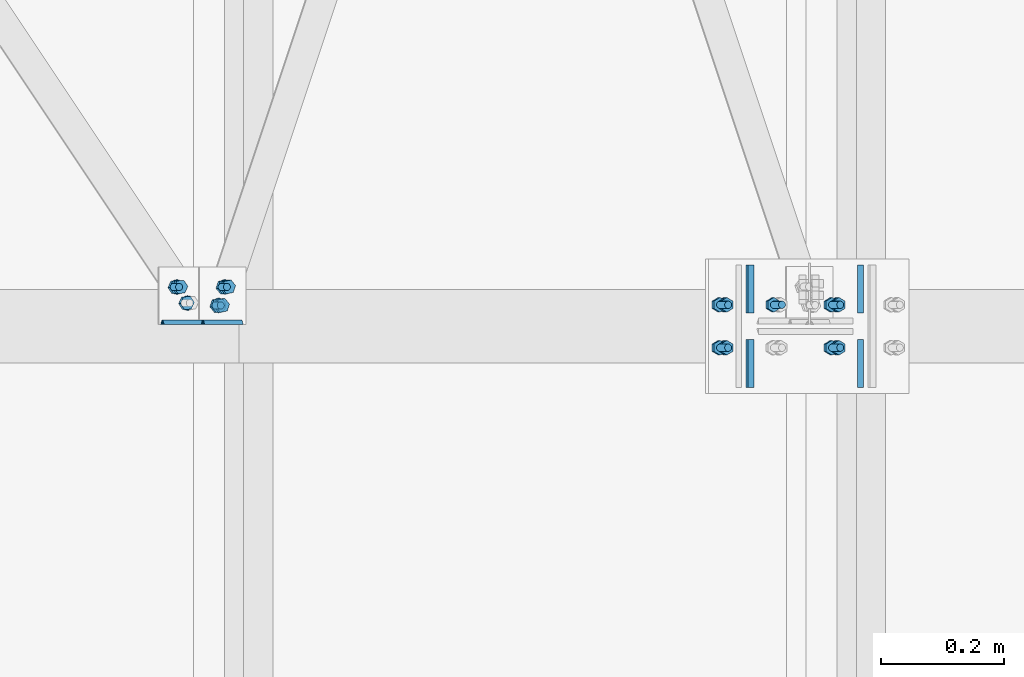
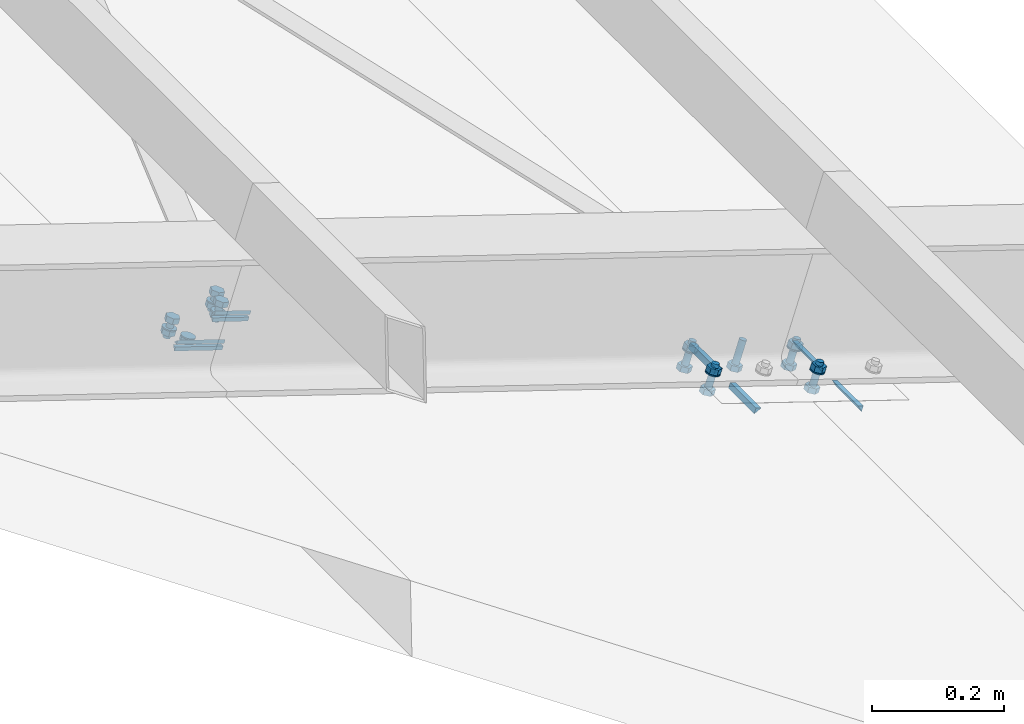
# One storey, part 47 of 53: 32 mechanical fasteners, 12 fasteners.
"""IFC4 building model written with IfcOpenShell, lengths in metres."""

from ifc_helpers import new_model, si_unit, frame, origin_with_axes, place, context, project, spatial, polyline, outline, extrude, type_object, element, save


model = new_model("IFC4")

# Units and contexts
model_context = context("Model", 3, precision=1e-05, world=origin_with_axes())
ifc_project = project(units=[si_unit("LENGTHUNIT", "METRE"), si_unit("AREAUNIT", "SQUARE_METRE"), si_unit("VOLUMEUNIT", "CUBIC_METRE"), si_unit("MASSUNIT", "GRAM", prefix="KILO"), si_unit("TIMEUNIT", "SECOND"), si_unit("PLANEANGLEUNIT", "RADIAN"), si_unit("SOLIDANGLEUNIT", "STERADIAN"), si_unit("THERMODYNAMICTEMPERATUREUNIT", "DEGREE_CELSIUS")], contexts=[model_context])

# Site, building, storey
placement_1 = place(None, origin_with_axes())
site = spatial("IfcSite", under=ifc_project, at=placement_1, Name="Italia", CompositionType="ELEMENT")
building = spatial("IfcBuilding", under=site, at=placement_1, Name="Capannone", CompositionType="ELEMENT")
storey_placement = place(None, frame((0.0, 0.0, 5.550000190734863), z_axis=(0.0, 0.0, 1.0), x_axis=(1.0, 0.0, 0.0)))
storey = spatial("IfcBuildingStorey", under=building, at=storey_placement, Name="Storey 1", CompositionType="ELEMENT", Elevation=5.550000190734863)

# Mechanical fasteners
mechanical_fastener_type_1 = type_object("IfcMechanicalFastenerType", Name="Collegamento -1056_-1090", PredefinedType="BOLT")
placement_2 = place(placement_1, origin_with_axes())
mechanical_fastener_1_placement = place(placement_2, origin_with_axes())
element("IfcMechanicalFastener", 1, at=mechanical_fastener_1_placement, inside=storey, type_object=mechanical_fastener_type_1, Name="Collegamento -1056_-1090", NominalDiameter=0.0119996, context=model_context, shape_type="SweptSolid", body=[
    extrude(outline(polyline([(0.0, 0.0), (-0.00982285, -0.00689316), (-0.00876427, -0.0188465), (0.0021162, -0.0239067), (0.011939, -0.0170135), (0.0108814, -0.0050602), (0.0, 0.0)])), frame((12.9761, 12.0369, 5.92947), z_axis=(0.312231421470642, 0.0, 0.950006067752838), x_axis=(0.0, 1.0, 0.0)), (0.0, 0.0, 1.0), 0.00959993),
])
mechanical_fastener_type_2 = type_object("IfcMechanicalFastenerType", Name="Collegamento -1056_-1090", PredefinedType="BOLT")
mechanical_fastener_2_placement = place(placement_2, origin_with_axes())
element("IfcMechanicalFastener", 2, at=mechanical_fastener_2_placement, inside=storey, type_object=mechanical_fastener_type_2, Name="Collegamento -1056_-1090", NominalDiameter=0.024, context=model_context, shape_type="SweptSolid", body=[
    extrude(outline(polyline([(0.0, 0.0), (-0.000409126, -0.00310612), (-0.00160789, -0.00600052), (-0.00351524, -0.00848484), (-0.00600052, -0.0103922), (-0.00889397, -0.011591), (-0.0120001, -0.012001), (-0.0151062, -0.011591), (-0.0179996, -0.0103922), (-0.0204849, -0.00848484), (-0.0223923, -0.00600052), (-0.023591, -0.00310612), (-0.0240002, 0.0), (-0.023591, 0.00310612), (-0.0223923, 0.00599957), (-0.0204849, 0.00848484), (-0.0179996, 0.0103922), (-0.0151062, 0.011591), (-0.0120001, 0.012001), (-0.00889397, 0.011591), (-0.00600052, 0.0103922), (-0.00351524, 0.00848484), (-0.00160789, 0.00599957), (-0.000409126, 0.00310612), (0.0, 0.0)])), frame((12.9905, 12.0499, 5.93486), z_axis=(0.312291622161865, 0.0, 0.949986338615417), x_axis=(0.0, 1.0, 0.0)), (0.0, 0.0, 1.0), 0.00200024),
])
mechanical_fastener_type_3 = type_object("IfcMechanicalFastenerType", Name="Collegamento -1056_-1090", PredefinedType="BOLT")
mechanical_fastener_3_placement = place(placement_2, origin_with_axes())
element("IfcMechanicalFastener", 3, at=mechanical_fastener_3_placement, inside=storey, type_object=mechanical_fastener_type_3, Name="Collegamento -1056_-1090", NominalDiameter=0.0119997, context=model_context, shape_type="SweptSolid", body=[
    extrude(outline(polyline([(0.0, 0.0), (-0.00982285, -0.00689316), (-0.00876522, -0.0188465), (0.0021162, -0.0239067), (0.011939, -0.0170135), (0.0108805, -0.0050602), (0.0, 0.0)])), frame((12.9654, 12.0631, 5.95573), z_axis=(0.312231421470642, 0.0, 0.950006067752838), x_axis=(0.0, 1.0, 0.0)), (0.0, 0.0, 1.0), 0.00959993),
])
mechanical_fastener_type_4 = type_object("IfcMechanicalFastenerType", Name="Collegamento -1056_-1090", PredefinedType="BOLT")
mechanical_fastener_4_placement = place(placement_2, origin_with_axes())
element("IfcMechanicalFastener", 4, at=mechanical_fastener_4_placement, inside=storey, type_object=mechanical_fastener_type_4, Name="Collegamento -1056_-1090", NominalDiameter=0.012, context=model_context, shape_type="SweptSolid", body=[
    extrude(outline(polyline([(0.0, 0.0), (-0.000204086, -0.00155354), (-0.000802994, -0.00300121), (-0.00175667, -0.0042429), (-0.00299931, -0.00519562), (-0.00444698, -0.00579453), (-0.00599957, -0.00599957), (-0.00755215, -0.00579453), (-0.00899982, -0.00519562), (-0.0102425, -0.0042429), (-0.0111961, -0.00300121), (-0.011795, -0.00155354), (-0.0119991, 0.0), (-0.011795, 0.00155258), (-0.0111961, 0.00300026), (-0.0102425, 0.00424194), (-0.00899982, 0.00519562), (-0.00755215, 0.00579548), (-0.00599957, 0.00599957), (-0.00444698, 0.00579548), (-0.00299931, 0.00519562), (-0.00175667, 0.00424194), (-0.000802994, 0.00300026), (-0.000204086, 0.00155258), (0.0, 0.0)])), frame((12.968, 12.0701, 5.92539), z_axis=(0.312158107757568, 0.0, 0.950030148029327), x_axis=(0.0, 1.0, 0.0)), (0.0, 0.0, 1.0), 0.028),
])
mechanical_fastener_type_5 = type_object("IfcMechanicalFastenerType", Name="Collegamento -1056_-1090", PredefinedType="BOLT")
mechanical_fastener_5_placement = place(placement_2, origin_with_axes())
element("IfcMechanicalFastener", 5, at=mechanical_fastener_5_placement, inside=storey, type_object=mechanical_fastener_type_5, Name="Collegamento -1056_-1090", NominalDiameter=0.0119997, context=model_context, shape_type="SweptSolid", body=[
    extrude(outline(polyline([(0.0, 0.0), (-0.00982285, -0.00689316), (-0.00876522, -0.0188475), (0.0021162, -0.0239077), (0.011939, -0.0170135), (0.0108805, -0.0050602), (0.0, 0.0)])), frame((12.9587, 12.0631, 5.9352), z_axis=(0.312231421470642, 0.0, 0.950006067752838), x_axis=(0.0, 1.0, 0.0)), (0.0, 0.0, 1.0), 0.00959993),
])
mechanical_fastener_type_6 = type_object("IfcMechanicalFastenerType", Name="Collegamento -1056_-1090", PredefinedType="BOLT")
mechanical_fastener_6_placement = place(placement_2, origin_with_axes())
element("IfcMechanicalFastener", 6, at=mechanical_fastener_6_placement, inside=storey, type_object=mechanical_fastener_type_6, Name="Collegamento -1056_-1090", NominalDiameter=0.024, context=model_context, shape_type="SweptSolid", body=[
    extrude(outline(polyline([(0.0, 0.0), (-0.000409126, -0.00310612), (-0.00160789, -0.00600052), (-0.00351524, -0.00848675), (-0.00600052, -0.0103922), (-0.00889397, -0.0115919), (-0.0120001, -0.012001), (-0.0151062, -0.0115919), (-0.0179996, -0.0103922), (-0.0204849, -0.00848675), (-0.0223923, -0.00600052), (-0.023591, -0.00310612), (-0.0240002, 0.0), (-0.023591, 0.00310516), (-0.0223923, 0.00599957), (-0.0204849, 0.00848579), (-0.0179996, 0.0103912), (-0.0151062, 0.011591), (-0.0120001, 0.0119991), (-0.00889397, 0.011591), (-0.00600052, 0.0103912), (-0.00351524, 0.00848579), (-0.00160789, 0.00599957), (-0.000409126, 0.00310516), (0.0, 0.0)])), frame((12.973, 12.0761, 5.94059), z_axis=(0.311931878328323, 0.0, 0.950104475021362), x_axis=(0.0, 1.0, 0.0)), (0.0, 0.0, 1.0), 0.00199948),
])

# Fasteners
fastener_type_1 = type_object("IfcFastenerType", Name="Collegamento -1056_-1090", PredefinedType="WELD")
fastener_1_placement = place(placement_2, origin_with_axes())
element("IfcFastener", 7, at=fastener_1_placement, inside=storey, type_object=fastener_type_1, Name="Collegamento -1056_-1090", context=model_context, shape_type="SweptSolid", body=[
    extrude(outline(polyline([(0.0, 0.0), (-0.00717258, 0.00695801), (0.0, 0.00695801), (0.0, 0.0)])), frame((13.0303, 12.0031, 5.91662), z_axis=(-0.950028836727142, 0.0, 0.312162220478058), x_axis=(0.0, -1.0, 0.0)), (0.0, 0.0, 1.0), 0.0880988),
])
fastener_type_2 = type_object("IfcFastenerType", Name="Collegamento -1056_-1090", PredefinedType="WELD")
fastener_2_placement = place(placement_2, origin_with_axes())
element("IfcFastener", 8, at=fastener_2_placement, inside=storey, type_object=fastener_type_2, Name="Collegamento -1056_-1090", context=model_context, shape_type="SweptSolid", body=[
    extrude(outline(polyline([(0.0, 0.0), (0.00717258, -0.00695705), (0.0, -0.00695705), (0.0, 0.0)])), frame((12.9524, 12.0031, 5.962), z_axis=(0.950032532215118, 0.0, -0.312150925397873), x_axis=(0.0, 1.0, 0.0)), (0.0, 0.0, 1.0), 0.0881004),
])

# Mechanical fasteners
mechanical_fastener_type_7 = type_object("IfcMechanicalFastenerType", Name="Collegamento -1056_0112", PredefinedType="BOLT")
mechanical_fastener_7_placement = place(placement_2, origin_with_axes())
element("IfcMechanicalFastener", 9, at=mechanical_fastener_7_placement, inside=storey, type_object=mechanical_fastener_type_7, Name="Collegamento -1056_0112", NominalDiameter=0.0119993, context=model_context, shape_type="SweptSolid", body=[
    extrude(outline(polyline([(0.0, 0.0), (-0.011323, 0.00397396), (-0.0204248, -0.00384617), (-0.0182037, -0.0156393), (-0.00688076, -0.0196114), (0.00222111, -0.0117931), (0.0, 0.0)])), frame((13.0375, 12.0431, 5.97941), z_axis=(0.312127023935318, 0.0, 0.950040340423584), x_axis=(0.0, 1.0, 0.0)), (0.0, 0.0, 1.0), 0.00960008),
])
mechanical_fastener_type_8 = type_object("IfcMechanicalFastenerType", Name="Collegamento -1056_0112", PredefinedType="BOLT")
mechanical_fastener_8_placement = place(placement_2, origin_with_axes())
element("IfcMechanicalFastener", 10, at=mechanical_fastener_8_placement, inside=storey, type_object=mechanical_fastener_type_8, Name="Collegamento -1056_0112", NominalDiameter=0.012, context=model_context, shape_type="SweptSolid", body=[
    extrude(outline(polyline([(0.0, 0.0), (-0.000204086, -0.00155258), (-0.000802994, -0.00300026), (-0.00175667, -0.0042429), (-0.00299931, -0.00519562), (-0.00444698, -0.00579453), (-0.00599957, -0.00599957), (-0.00755215, -0.00579453), (-0.00899982, -0.00519562), (-0.0102425, -0.0042429), (-0.0111961, -0.00300026), (-0.011795, -0.00155258), (-0.0119991, 0.0), (-0.011795, 0.00155258), (-0.0111961, 0.00300026), (-0.0102425, 0.00424194), (-0.00899982, 0.00519657), (-0.00755215, 0.00579548), (-0.00599957, 0.00600052), (-0.00444698, 0.00579548), (-0.00299931, 0.00519657), (-0.00175667, 0.00424194), (-0.000802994, 0.00300026), (-0.000204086, 0.00155258), (0.0, 0.0)])), frame((13.0362, 12.04, 5.95037), z_axis=(0.312158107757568, 0.0, 0.950030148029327), x_axis=(0.0, 1.0, 0.0)), (0.0, 0.0, 1.0), 0.028),
])
mechanical_fastener_type_9 = type_object("IfcMechanicalFastenerType", Name="Collegamento -1056_0112", PredefinedType="BOLT")
mechanical_fastener_9_placement = place(placement_2, origin_with_axes())
element("IfcMechanicalFastener", 11, at=mechanical_fastener_9_placement, inside=storey, type_object=mechanical_fastener_type_9, Name="Collegamento -1056_0112", NominalDiameter=0.0119993, context=model_context, shape_type="SweptSolid", body=[
    extrude(outline(polyline([(0.0, 0.0), (-0.011323, 0.00397396), (-0.0204248, -0.00384521), (-0.0182037, -0.0156384), (-0.00688076, -0.0196114), (0.00222111, -0.0117922), (0.0, 0.0)])), frame((13.0307, 12.0431, 5.95889), z_axis=(0.312127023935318, 0.0, 0.950040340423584), x_axis=(0.0, 1.0, 0.0)), (0.0, 0.0, 1.0), 0.00960008),
])
mechanical_fastener_type_10 = type_object("IfcMechanicalFastenerType", Name="Collegamento -1056_0112", PredefinedType="BOLT")
mechanical_fastener_10_placement = place(placement_2, origin_with_axes())
element("IfcMechanicalFastener", 12, at=mechanical_fastener_10_placement, inside=storey, type_object=mechanical_fastener_type_10, Name="Collegamento -1056_0112", NominalDiameter=0.024, context=model_context, shape_type="SweptSolid", body=[
    extrude(outline(polyline([(0.0, 0.0), (-0.000409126, -0.00310516), (-0.00160789, -0.00599957), (-0.00351524, -0.00848389), (-0.00600052, -0.0103922), (-0.00889397, -0.011591), (-0.0120001, -0.0120001), (-0.0151062, -0.011591), (-0.0179996, -0.0103922), (-0.0204849, -0.00848389), (-0.0223923, -0.00599957), (-0.023591, -0.00310516), (-0.0240002, 0.0), (-0.023591, 0.00310612), (-0.0223923, 0.00600052), (-0.0204849, 0.00848484), (-0.0179996, 0.0103922), (-0.0151062, 0.011591), (-0.0120001, 0.0120001), (-0.00889397, 0.011591), (-0.00600052, 0.0103922), (-0.00351524, 0.00848484), (-0.00160789, 0.00600052), (-0.000409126, 0.00310612), (0.0, 0.0)])), frame((13.0412, 12.046, 5.96557), z_axis=(0.312291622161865, 0.0, 0.949986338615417), x_axis=(0.0, 1.0, 0.0)), (0.0, 0.0, 1.0), 0.00200024),
])
mechanical_fastener_type_11 = type_object("IfcMechanicalFastenerType", Name="Collegamento -1056_0112", PredefinedType="BOLT")
mechanical_fastener_11_placement = place(placement_2, origin_with_axes())
element("IfcMechanicalFastener", 13, at=mechanical_fastener_11_placement, inside=storey, type_object=mechanical_fastener_type_11, Name="Collegamento -1056_0112", NominalDiameter=0.0119997, context=model_context, shape_type="SweptSolid", body=[
    extrude(outline(polyline([(0.0, 0.0), (-0.011323, 0.00397301), (-0.0204248, -0.00384617), (-0.0182037, -0.0156393), (-0.00688076, -0.0196123), (0.00222111, -0.0117922), (0.0, 0.0)])), frame((13.0475, 12.0733, 5.97611), z_axis=(0.312127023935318, 0.0, 0.950040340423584), x_axis=(0.0, 1.0, 0.0)), (0.0, 0.0, 1.0), 0.00960008),
])
mechanical_fastener_type_12 = type_object("IfcMechanicalFastenerType", Name="Collegamento -1056_0112", PredefinedType="BOLT")
mechanical_fastener_12_placement = place(placement_2, origin_with_axes())
element("IfcMechanicalFastener", 14, at=mechanical_fastener_12_placement, inside=storey, type_object=mechanical_fastener_type_12, Name="Collegamento -1056_0112", NominalDiameter=0.012, context=model_context, shape_type="SweptSolid", body=[
    extrude(outline(polyline([(0.0, 0.0), (-0.000204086, -0.00155354), (-0.000802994, -0.00300026), (-0.00175667, -0.00424194), (-0.00299931, -0.00519657), (-0.00444698, -0.00579548), (-0.00599957, -0.00600052), (-0.00755215, -0.00579548), (-0.00899982, -0.00519657), (-0.0102425, -0.00424194), (-0.0111961, -0.00300026), (-0.011795, -0.00155354), (-0.0119991, 0.0), (-0.011795, 0.00155258), (-0.0111961, 0.00300026), (-0.0102425, 0.00424194), (-0.00899982, 0.00519562), (-0.00755215, 0.00579453), (-0.00599957, 0.00599957), (-0.00444698, 0.00579453), (-0.00299931, 0.00519562), (-0.00175667, 0.00424194), (-0.000802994, 0.00300026), (-0.000204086, 0.00155258), (0.0, 0.0)])), frame((13.0462, 12.0702, 5.94706), z_axis=(0.312158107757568, 0.0, 0.950030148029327), x_axis=(0.0, 1.0, 0.0)), (0.0, 0.0, 1.0), 0.028),
])
mechanical_fastener_type_13 = type_object("IfcMechanicalFastenerType", Name="Collegamento -1056_0112", PredefinedType="BOLT")
mechanical_fastener_13_placement = place(placement_2, origin_with_axes())
element("IfcMechanicalFastener", 15, at=mechanical_fastener_13_placement, inside=storey, type_object=mechanical_fastener_type_13, Name="Collegamento -1056_0112", NominalDiameter=0.0119992, context=model_context, shape_type="SweptSolid", body=[
    extrude(outline(polyline([(0.0, 0.0), (-0.011323, 0.00397301), (-0.0204248, -0.00384712), (-0.0182037, -0.0156403), (-0.00688076, -0.0196114), (0.00222111, -0.0117941), (0.0, 0.0)])), frame((13.0408, 12.0733, 5.95559), z_axis=(0.312127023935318, 0.0, 0.950040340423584), x_axis=(0.0, 1.0, 0.0)), (0.0, 0.0, 1.0), 0.00960008),
])
mechanical_fastener_type_14 = type_object("IfcMechanicalFastenerType", Name="Collegamento -1056_0112", PredefinedType="BOLT")
mechanical_fastener_14_placement = place(placement_2, origin_with_axes())
element("IfcMechanicalFastener", 16, at=mechanical_fastener_14_placement, inside=storey, type_object=mechanical_fastener_type_14, Name="Collegamento -1056_0112", NominalDiameter=0.024, context=model_context, shape_type="SweptSolid", body=[
    extrude(outline(polyline([(0.0, 0.0), (-0.000409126, -0.00310612), (-0.00160789, -0.00599957), (-0.00351524, -0.00848579), (-0.00600052, -0.0103931), (-0.00889397, -0.011591), (-0.0120001, -0.0120001), (-0.0151062, -0.011591), (-0.0179996, -0.0103931), (-0.0204849, -0.00848579), (-0.0223923, -0.00599957), (-0.023591, -0.00310612), (-0.0240002, 0.0), (-0.023591, 0.00310612), (-0.0223923, 0.00600052), (-0.0204849, 0.00848484), (-0.0179996, 0.0103922), (-0.0151062, 0.011591), (-0.0120001, 0.0120001), (-0.00889397, 0.011591), (-0.00600052, 0.0103922), (-0.00351524, 0.00848484), (-0.00160789, 0.00600052), (-0.000409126, 0.00310612), (0.0, 0.0)])), frame((13.0512, 12.0762, 5.96227), z_axis=(0.312291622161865, 0.0, 0.949986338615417), x_axis=(0.0, 1.0, 0.0)), (0.0, 0.0, 1.0), 0.00200024),
])

# Fasteners
fastener_type_3 = type_object("IfcFastenerType", Name="Collegamento -1056_0112", PredefinedType="WELD")
fastener_3_placement = place(placement_2, origin_with_axes())
element("IfcFastener", 17, at=fastener_3_placement, inside=storey, type_object=fastener_type_3, Name="Collegamento -1056_0112", context=model_context, shape_type="SweptSolid", body=[
    extrude(outline(polyline([(0.0, 0.0), (-0.00717258, 0.00695705), (0.0, 0.00695705), (0.0, 0.0)])), frame((13.0756, 12.0031, 5.95436), z_axis=(-0.95003080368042, 0.0, 0.31215626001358), x_axis=(0.0, -1.0, 0.0)), (0.0, 0.0, 1.0), 0.0661005),
])
fastener_type_4 = type_object("IfcFastenerType", Name="Collegamento -1056_0112", PredefinedType="WELD")
fastener_4_placement = place(placement_2, origin_with_axes())
element("IfcFastener", 18, at=fastener_4_placement, inside=storey, type_object=fastener_type_4, Name="Collegamento -1056_0112", context=model_context, shape_type="SweptSolid", body=[
    extrude(outline(polyline([(0.0, 0.0), (0.00717258, -0.00695896), (0.0, -0.00695896), (0.0, 0.0)])), frame((13.0187, 12.0031, 5.99287), z_axis=(0.95003217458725, 0.0, -0.312151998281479), x_axis=(0.0, 1.0, 0.0)), (0.0, 0.0, 1.0), 0.0661014),
])
fastener_type_5 = type_object("IfcFastenerType", Name="Collegamenti 0102_0002 0104_0004 0106_0006 0108_0008 0110_0010 0112_0012", PredefinedType="WELD")
fastener_5_placement = place(placement_2, origin_with_axes())
element("IfcFastener", 19, at=fastener_5_placement, inside=storey, type_object=fastener_type_5, Name="Collegamenti 0102_0002 0104_0004 0106_0006 0108_0008 0110_0010 0112_0012", context=model_context, shape_type="SweptSolid", body=[
    extrude(outline(polyline([(0.0, 0.0), (-0.0125504, -0.00658464), (-0.00937462, 0.00308037), (0.0, 0.0)])), frame((13.9153, 12.1, 5.56208), z_axis=(0.0, -1.0, 0.0), x_axis=(1.0, 0.0, 0.0)), (0.0, 0.0, 1.0), 0.0785999),
])
fastener_type_6 = type_object("IfcFastenerType", Name="Collegamenti 0102_0002 0104_0004 0106_0006 0108_0008 0110_0010 0112_0012", PredefinedType="WELD")
fastener_6_placement = place(placement_2, origin_with_axes())
element("IfcFastener", 20, at=fastener_6_placement, inside=storey, type_object=fastener_type_6, Name="Collegamenti 0102_0002 0104_0004 0106_0006 0108_0008 0110_0010 0112_0012", context=model_context, shape_type="SweptSolid", body=[
    extrude(outline(polyline([(0.0, 0.0), (-0.00619984, -0.0127454), (-0.00937557, -0.00308037), (0.0, 0.0)])), frame((14.0847, 12.0215, 5.50644), z_axis=(0.0, 1.0, 0.0), x_axis=(-1.0, 0.0, 0.0)), (0.0, 0.0, 1.0), 0.0785999),
])
fastener_type_7 = type_object("IfcFastenerType", Name="Collegamenti 0102_0002 0104_0004 0106_0006 0108_0008 0110_0010 0112_0012", PredefinedType="WELD")
fastener_7_placement = place(placement_2, origin_with_axes())
element("IfcFastener", 21, at=fastener_7_placement, inside=storey, type_object=fastener_type_7, Name="Collegamenti 0102_0002 0104_0004 0106_0006 0108_0008 0110_0010 0112_0012", context=model_context, shape_type="SweptSolid", body=[
    extrude(outline(polyline([(0.0, 0.0), (-0.00619984, -0.0127454), (-0.00937557, -0.00308037), (0.0, 0.0)])), frame((14.0847, 11.9, 5.50644), z_axis=(0.0, 1.0, 0.0), x_axis=(-1.0, 0.0, 0.0)), (0.0, 0.0, 1.0), 0.0785999),
])
fastener_type_8 = type_object("IfcFastenerType", Name="Collegamenti 0102_0002 0104_0004 0106_0006 0108_0008 0110_0010 0112_0012", PredefinedType="WELD")
fastener_8_placement = place(placement_2, origin_with_axes())
element("IfcFastener", 22, at=fastener_8_placement, inside=storey, type_object=fastener_type_8, Name="Collegamenti 0102_0002 0104_0004 0106_0006 0108_0008 0110_0010 0112_0012", context=model_context, shape_type="SweptSolid", body=[
    extrude(outline(polyline([(0.0, 0.0), (-0.0125504, -0.00658464), (-0.00937462, 0.00308037), (0.0, 0.0)])), frame((13.9153, 11.9785, 5.56208), z_axis=(0.0, -1.0, 0.0), x_axis=(1.0, 0.0, 0.0)), (0.0, 0.0, 1.0), 0.0785999),
])
fastener_type_9 = type_object("IfcFastenerType", Name="Collegamenti 0102_0002 0104_0004 0106_0006 0108_0008 0110_0010 0112_0012", PredefinedType="WELD")
fastener_9_placement = place(placement_2, origin_with_axes())
element("IfcFastener", 23, at=fastener_9_placement, inside=storey, type_object=fastener_type_9, Name="Collegamenti 0102_0002 0104_0004 0106_0006 0108_0008 0110_0010 0112_0012", context=model_context, shape_type="SweptSolid", body=[
    extrude(outline(polyline([(0.0, 0.0), (-0.0125504, -0.00658464), (-0.00937462, 0.00308037), (0.0, 0.0)])), frame((13.9153, 12.1, 5.56208), z_axis=(0.0, -1.0, 0.0), x_axis=(1.0, 0.0, 0.0)), (0.0, 0.0, 1.0), 0.0785999),
])
fastener_type_10 = type_object("IfcFastenerType", Name="Collegamenti 0102_0002 0104_0004 0106_0006 0108_0008 0110_0010 0112_0012", PredefinedType="WELD")
fastener_10_placement = place(placement_2, origin_with_axes())
element("IfcFastener", 24, at=fastener_10_placement, inside=storey, type_object=fastener_type_10, Name="Collegamenti 0102_0002 0104_0004 0106_0006 0108_0008 0110_0010 0112_0012", context=model_context, shape_type="SweptSolid", body=[
    extrude(outline(polyline([(0.0, 0.0), (-0.00619984, -0.0127454), (-0.00937557, -0.00308037), (0.0, 0.0)])), frame((14.0847, 12.0215, 5.50644), z_axis=(0.0, 1.0, 0.0), x_axis=(-1.0, 0.0, 0.0)), (0.0, 0.0, 1.0), 0.0785999),
])
fastener_type_11 = type_object("IfcFastenerType", Name="Collegamenti 0102_0002 0104_0004 0106_0006 0108_0008 0110_0010 0112_0012", PredefinedType="WELD")
fastener_11_placement = place(placement_2, origin_with_axes())
element("IfcFastener", 25, at=fastener_11_placement, inside=storey, type_object=fastener_type_11, Name="Collegamenti 0102_0002 0104_0004 0106_0006 0108_0008 0110_0010 0112_0012", context=model_context, shape_type="SweptSolid", body=[
    extrude(outline(polyline([(0.0, 0.0), (-0.00619984, -0.0127454), (-0.00937557, -0.00308037), (0.0, 0.0)])), frame((14.0847, 11.9, 5.50644), z_axis=(0.0, 1.0, 0.0), x_axis=(-1.0, 0.0, 0.0)), (0.0, 0.0, 1.0), 0.0785999),
])
fastener_type_12 = type_object("IfcFastenerType", Name="Collegamenti 0102_0002 0104_0004 0106_0006 0108_0008 0110_0010 0112_0012", PredefinedType="WELD")
fastener_12_placement = place(placement_2, origin_with_axes())
element("IfcFastener", 26, at=fastener_12_placement, inside=storey, type_object=fastener_type_12, Name="Collegamenti 0102_0002 0104_0004 0106_0006 0108_0008 0110_0010 0112_0012", context=model_context, shape_type="SweptSolid", body=[
    extrude(outline(polyline([(0.0, 0.0), (-0.0125504, -0.00658464), (-0.00937462, 0.00308037), (0.0, 0.0)])), frame((13.9153, 11.9785, 5.56208), z_axis=(0.0, -1.0, 0.0), x_axis=(1.0, 0.0, 0.0)), (0.0, 0.0, 1.0), 0.0785999),
])

# Mechanical fasteners
mechanical_fastener_type_15 = type_object("IfcMechanicalFastenerType", Name="Collegamenti 0102_0002 0104_0004 0106_0006 0108_0008 0110_0010 0112_0012", PredefinedType="BOLT")
mechanical_fastener_15_placement = place(placement_2, origin_with_axes())
element("IfcMechanicalFastener", 27, at=mechanical_fastener_15_placement, inside=storey, type_object=mechanical_fastener_type_15, Name="Collegamenti 0102_0002 0104_0004 0106_0006 0108_0008 0110_0010 0112_0012", NominalDiameter=0.0120001, context=model_context, shape_type="SweptSolid", body=[
    extrude(outline(polyline([(0.0, 0.0), (-0.0120001, 0.0), (-0.0179996, 0.0103931), (-0.0120001, 0.0207853), (0.0, 0.0207853), (0.00600052, 0.0103931), (0.0, 0.0)])), frame((13.8697, 12.029, 5.57702), z_axis=(-0.312231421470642, 0.0, -0.950006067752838), x_axis=(0.0, -1.0, 0.0)), (0.0, 0.0, 1.0), 0.00959993),
])
mechanical_fastener_type_16 = type_object("IfcMechanicalFastenerType", Name="Collegamenti 0102_0002 0104_0004 0106_0006 0108_0008 0110_0010 0112_0012", PredefinedType="BOLT")
mechanical_fastener_16_placement = place(placement_2, origin_with_axes())
element("IfcMechanicalFastener", 28, at=mechanical_fastener_16_placement, inside=storey, type_object=mechanical_fastener_type_16, Name="Collegamenti 0102_0002 0104_0004 0106_0006 0108_0008 0110_0010 0112_0012", NominalDiameter=0.012, context=model_context, shape_type="SweptSolid", body=[
    extrude(outline(polyline([(0.0, 0.0), (-0.000204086, -0.00155354), (-0.000802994, -0.00300121), (-0.00175667, -0.0042429), (-0.00299931, -0.00519562), (-0.00444698, -0.00579548), (-0.00599957, -0.00599957), (-0.00755215, -0.00579548), (-0.00899982, -0.00519562), (-0.0102425, -0.0042429), (-0.0111961, -0.00300121), (-0.011795, -0.00155354), (-0.0119991, 0.0), (-0.011795, 0.00155258), (-0.0111961, 0.00300026), (-0.0102425, 0.00424194), (-0.00899982, 0.00519562), (-0.00755215, 0.00579548), (-0.00599957, 0.00599957), (-0.00444698, 0.00579548), (-0.00299931, 0.00519562), (-0.00175667, 0.00424194), (-0.000802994, 0.00300026), (-0.000204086, 0.00155258), (0.0, 0.0)])), frame((13.8732, 12.029, 5.62092), z_axis=(-0.312153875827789, 0.0, -0.950031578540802), x_axis=(0.0, -1.0, 0.0)), (0.0, 0.0, 1.0), 0.0427995),
])
mechanical_fastener_type_17 = type_object("IfcMechanicalFastenerType", Name="Collegamenti 0102_0002 0104_0004 0106_0006 0108_0008 0110_0010 0112_0012", PredefinedType="BOLT")
mechanical_fastener_17_placement = place(placement_2, origin_with_axes())
element("IfcMechanicalFastener", 29, at=mechanical_fastener_17_placement, inside=storey, type_object=mechanical_fastener_type_17, Name="Collegamenti 0102_0002 0104_0004 0106_0006 0108_0008 0110_0010 0112_0012", NominalDiameter=0.0119993, context=model_context, shape_type="SweptSolid", body=[
    extrude(outline(polyline([(0.0, 0.0), (-0.0120001, 0.0), (-0.0179996, 0.0103922), (-0.0120001, 0.0207844), (0.0, 0.0207844), (0.00600052, 0.0103922), (0.0, 0.0)])), frame((13.8811, 12.029, 5.6116), z_axis=(-0.312141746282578, 0.0, -0.950035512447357), x_axis=(0.0, -1.0, 0.0)), (0.0, 0.0, 1.0), 0.00959963),
])
mechanical_fastener_type_18 = type_object("IfcMechanicalFastenerType", Name="Collegamenti 0102_0002 0104_0004 0106_0006 0108_0008 0110_0010 0112_0012", PredefinedType="BOLT")
mechanical_fastener_18_placement = place(placement_2, origin_with_axes())
element("IfcMechanicalFastener", 30, at=mechanical_fastener_18_placement, inside=storey, type_object=mechanical_fastener_type_18, Name="Collegamenti 0102_0002 0104_0004 0106_0006 0108_0008 0110_0010 0112_0012", NominalDiameter=0.024, context=model_context, shape_type="SweptSolid", body=[
    extrude(outline(polyline([(0.0, 0.0), (-0.000409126, -0.00310612), (-0.00160789, -0.00600052), (-0.00351524, -0.00848484), (-0.00600052, -0.0103931), (-0.00889397, -0.011591), (-0.0120001, -0.0120001), (-0.0151062, -0.011591), (-0.0179996, -0.0103931), (-0.0204849, -0.00848484), (-0.0223923, -0.00600052), (-0.023591, -0.00310612), (-0.0240002, 0.0), (-0.023591, 0.00310516), (-0.0223923, 0.00599957), (-0.0204849, 0.00848484), (-0.0179996, 0.0103922), (-0.0151062, 0.01159), (-0.0120001, 0.0119991), (-0.00889397, 0.01159), (-0.00600052, 0.0103922), (-0.00351524, 0.00848484), (-0.00160789, 0.00599957), (-0.000409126, 0.00310516), (0.0, 0.0)])), frame((13.8682, 12.023, 5.60572), z_axis=(-0.312362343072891, 0.0, -0.94996303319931), x_axis=(0.0, -1.0, 0.0)), (0.0, 0.0, 1.0), 0.00199978),
])
mechanical_fastener_type_19 = type_object("IfcMechanicalFastenerType", Name="Collegamenti 0102_0002 0104_0004 0106_0006 0108_0008 0110_0010 0112_0012", PredefinedType="BOLT")
mechanical_fastener_19_placement = place(placement_2, origin_with_axes())
element("IfcMechanicalFastener", 31, at=mechanical_fastener_19_placement, inside=storey, type_object=mechanical_fastener_type_19, Name="Collegamenti 0102_0002 0104_0004 0106_0006 0108_0008 0110_0010 0112_0012", NominalDiameter=0.0120001, context=model_context, shape_type="SweptSolid", body=[
    extrude(outline(polyline([(0.0, 0.0), (-0.0120001, 0.0), (-0.0180006, 0.0103931), (-0.0120001, 0.0207853), (0.0, 0.0207853), (0.00599957, 0.0103931), (0.0, 0.0)])), frame((13.8697, 11.959, 5.57702), z_axis=(-0.312231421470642, 0.0, -0.950006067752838), x_axis=(0.0, -1.0, 0.0)), (0.0, 0.0, 1.0), 0.00959993),
])
mechanical_fastener_type_20 = type_object("IfcMechanicalFastenerType", Name="Collegamenti 0102_0002 0104_0004 0106_0006 0108_0008 0110_0010 0112_0012", PredefinedType="BOLT")
mechanical_fastener_20_placement = place(placement_2, origin_with_axes())
element("IfcMechanicalFastener", 32, at=mechanical_fastener_20_placement, inside=storey, type_object=mechanical_fastener_type_20, Name="Collegamenti 0102_0002 0104_0004 0106_0006 0108_0008 0110_0010 0112_0012", NominalDiameter=0.012, context=model_context, shape_type="SweptSolid", body=[
    extrude(outline(polyline([(0.0, 0.0), (-0.000204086, -0.00155354), (-0.000802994, -0.00300121), (-0.00175667, -0.0042429), (-0.00299931, -0.00519562), (-0.00444698, -0.00579548), (-0.00599957, -0.00599957), (-0.00755215, -0.00579548), (-0.00899982, -0.00519562), (-0.0102425, -0.0042429), (-0.0111961, -0.00300121), (-0.011795, -0.00155354), (-0.0119991, 0.0), (-0.011795, 0.00155258), (-0.0111961, 0.00300026), (-0.0102425, 0.00424194), (-0.00899982, 0.00519562), (-0.00755215, 0.00579548), (-0.00599957, 0.00599957), (-0.00444698, 0.00579548), (-0.00299931, 0.00519562), (-0.00175667, 0.00424194), (-0.000802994, 0.00300026), (-0.000204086, 0.00155258), (0.0, 0.0)])), frame((13.8732, 11.959, 5.62092), z_axis=(-0.312153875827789, 0.0, -0.950031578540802), x_axis=(0.0, -1.0, 0.0)), (0.0, 0.0, 1.0), 0.0427995),
])
mechanical_fastener_type_21 = type_object("IfcMechanicalFastenerType", Name="Collegamenti 0102_0002 0104_0004 0106_0006 0108_0008 0110_0010 0112_0012", PredefinedType="BOLT")
mechanical_fastener_21_placement = place(placement_2, origin_with_axes())
element("IfcMechanicalFastener", 33, at=mechanical_fastener_21_placement, inside=storey, type_object=mechanical_fastener_type_21, Name="Collegamenti 0102_0002 0104_0004 0106_0006 0108_0008 0110_0010 0112_0012", NominalDiameter=0.0119993, context=model_context, shape_type="SweptSolid", body=[
    extrude(outline(polyline([(0.0, 0.0), (-0.0120001, 0.0), (-0.0180006, 0.0103922), (-0.0120001, 0.0207844), (0.0, 0.0207844), (0.00599957, 0.0103922), (0.0, 0.0)])), frame((13.8811, 11.959, 5.6116), z_axis=(-0.312141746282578, 0.0, -0.950035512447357), x_axis=(0.0, -1.0, 0.0)), (0.0, 0.0, 1.0), 0.00959963),
])
mechanical_fastener_type_22 = type_object("IfcMechanicalFastenerType", Name="Collegamenti 0102_0002 0104_0004 0106_0006 0108_0008 0110_0010 0112_0012", PredefinedType="BOLT")
mechanical_fastener_22_placement = place(placement_2, origin_with_axes())
element("IfcMechanicalFastener", 34, at=mechanical_fastener_22_placement, inside=storey, type_object=mechanical_fastener_type_22, Name="Collegamenti 0102_0002 0104_0004 0106_0006 0108_0008 0110_0010 0112_0012", NominalDiameter=0.024, context=model_context, shape_type="SweptSolid", body=[
    extrude(outline(polyline([(0.0, 0.0), (-0.000409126, -0.00310612), (-0.00160789, -0.00600052), (-0.00351524, -0.00848484), (-0.00600052, -0.0103931), (-0.00889397, -0.011591), (-0.0120001, -0.0120001), (-0.0151062, -0.011591), (-0.0179996, -0.0103931), (-0.0204849, -0.00848484), (-0.0223923, -0.00600052), (-0.023591, -0.00310612), (-0.0240002, 0.0), (-0.023591, 0.00310516), (-0.0223923, 0.00599957), (-0.0204849, 0.00848484), (-0.0179996, 0.0103922), (-0.0151062, 0.01159), (-0.0120001, 0.0119991), (-0.00889397, 0.01159), (-0.00600052, 0.0103922), (-0.00351524, 0.00848484), (-0.00160789, 0.00599957), (-0.000409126, 0.00310516), (0.0, 0.0)])), frame((13.8682, 11.953, 5.60572), z_axis=(-0.312362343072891, 0.0, -0.94996303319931), x_axis=(0.0, -1.0, 0.0)), (0.0, 0.0, 1.0), 0.00199978),
])
mechanical_fastener_type_23 = type_object("IfcMechanicalFastenerType", Name="Collegamenti 0102_0002 0104_0004 0106_0006 0108_0008 0110_0010 0112_0012", PredefinedType="BOLT")
mechanical_fastener_23_placement = place(placement_2, origin_with_axes())
element("IfcMechanicalFastener", 35, at=mechanical_fastener_23_placement, inside=storey, type_object=mechanical_fastener_type_23, Name="Collegamenti 0102_0002 0104_0004 0106_0006 0108_0008 0110_0010 0112_0012", NominalDiameter=0.0119993, context=model_context, shape_type="SweptSolid", body=[
    extrude(outline(polyline([(0.0, 0.0), (-0.0120001, 0.0), (-0.0179996, 0.0103931), (-0.0120001, 0.0207844), (0.0, 0.0207844), (0.00600052, 0.0103931), (0.0, 0.0)])), frame((14.0527, 12.029, 5.5169), z_axis=(-0.312127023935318, 0.0, -0.950040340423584), x_axis=(0.0, -1.0, 0.0)), (0.0, 0.0, 1.0), 0.00960008),
])
mechanical_fastener_type_24 = type_object("IfcMechanicalFastenerType", Name="Collegamenti 0102_0002 0104_0004 0106_0006 0108_0008 0110_0010 0112_0012", PredefinedType="BOLT")
mechanical_fastener_24_placement = place(placement_2, origin_with_axes())
element("IfcMechanicalFastener", 36, at=mechanical_fastener_24_placement, inside=storey, type_object=mechanical_fastener_type_24, Name="Collegamenti 0102_0002 0104_0004 0106_0006 0108_0008 0110_0010 0112_0012", NominalDiameter=0.012, context=model_context, shape_type="SweptSolid", body=[
    extrude(outline(polyline([(0.0, 0.0), (-0.000204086, -0.00155258), (-0.000802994, -0.00300026), (-0.00175667, -0.00424194), (-0.00299931, -0.00519562), (-0.00444698, -0.00579453), (-0.00599957, -0.00599957), (-0.00755215, -0.00579453), (-0.00899982, -0.00519562), (-0.0102425, -0.00424194), (-0.0111961, -0.00300026), (-0.011795, -0.00155258), (-0.0119991, 0.0), (-0.011795, 0.00155354), (-0.0111961, 0.00300026), (-0.0102425, 0.00424194), (-0.00899982, 0.00519657), (-0.00755215, 0.00579548), (-0.00599957, 0.00600052), (-0.00444698, 0.00579548), (-0.00299931, 0.00519657), (-0.00175667, 0.00424194), (-0.000802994, 0.00300026), (-0.000204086, 0.00155354), (0.0, 0.0)])), frame((14.0562, 12.029, 5.5608), z_axis=(-0.312150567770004, 0.0, -0.950032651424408), x_axis=(0.0, -1.0, 0.0)), (0.0, 0.0, 1.0), 0.0427999),
])
mechanical_fastener_type_25 = type_object("IfcMechanicalFastenerType", Name="Collegamenti 0102_0002 0104_0004 0106_0006 0108_0008 0110_0010 0112_0012", PredefinedType="BOLT")
mechanical_fastener_25_placement = place(placement_2, origin_with_axes())
element("IfcMechanicalFastener", 37, at=mechanical_fastener_25_placement, inside=storey, type_object=mechanical_fastener_type_25, Name="Collegamenti 0102_0002 0104_0004 0106_0006 0108_0008 0110_0010 0112_0012", NominalDiameter=0.0119993, context=model_context, shape_type="SweptSolid", body=[
    extrude(outline(polyline([(0.0, 0.0), (-0.0120001, 0.0), (-0.0179996, 0.0103912), (-0.0120001, 0.0207834), (0.0, 0.0207834), (0.00600052, 0.0103912), (0.0, 0.0)])), frame((14.0641, 12.029, 5.55148), z_axis=(-0.312127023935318, 0.0, -0.950040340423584), x_axis=(0.0, -1.0, 0.0)), (0.0, 0.0, 1.0), 0.00960008),
])
mechanical_fastener_type_26 = type_object("IfcMechanicalFastenerType", Name="Collegamenti 0102_0002 0104_0004 0106_0006 0108_0008 0110_0010 0112_0012", PredefinedType="BOLT")
mechanical_fastener_26_placement = place(placement_2, origin_with_axes())
element("IfcMechanicalFastener", 38, at=mechanical_fastener_26_placement, inside=storey, type_object=mechanical_fastener_type_26, Name="Collegamenti 0102_0002 0104_0004 0106_0006 0108_0008 0110_0010 0112_0012", NominalDiameter=0.024, context=model_context, shape_type="SweptSolid", body=[
    extrude(outline(polyline([(0.0, 0.0), (-0.000409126, -0.00310516), (-0.00160789, -0.00599957), (-0.00351524, -0.00848579), (-0.00600052, -0.0103912), (-0.00889397, -0.011591), (-0.0120001, -0.0119991), (-0.0151062, -0.011591), (-0.0179996, -0.0103912), (-0.0204849, -0.00848579), (-0.0223923, -0.00599957), (-0.023591, -0.00310516), (-0.0240002, 0.0), (-0.023591, 0.00310612), (-0.0223923, 0.00600052), (-0.0204849, 0.00848675), (-0.0179996, 0.0103922), (-0.0151062, 0.011591), (-0.0120001, 0.0120001), (-0.00889397, 0.011591), (-0.00600052, 0.0103922), (-0.00351524, 0.00848675), (-0.00160789, 0.00600052), (-0.000409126, 0.00310612), (0.0, 0.0)])), frame((14.0512, 12.023, 5.5456), z_axis=(-0.311931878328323, 0.0, -0.950104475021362), x_axis=(0.0, -1.0, 0.0)), (0.0, 0.0, 1.0), 0.00199948),
])
mechanical_fastener_type_27 = type_object("IfcMechanicalFastenerType", Name="Collegamenti 0102_0002 0104_0004 0106_0006 0108_0008 0110_0010 0112_0012", PredefinedType="BOLT")
mechanical_fastener_27_placement = place(placement_2, origin_with_axes())
element("IfcMechanicalFastener", 39, at=mechanical_fastener_27_placement, inside=storey, type_object=mechanical_fastener_type_27, Name="Collegamenti 0102_0002 0104_0004 0106_0006 0108_0008 0110_0010 0112_0012", NominalDiameter=0.0119993, context=model_context, shape_type="SweptSolid", body=[
    extrude(outline(polyline([(0.0, 0.0), (-0.0120001, 0.0), (-0.0180006, 0.0103931), (-0.0120001, 0.0207844), (0.0, 0.0207844), (0.00599957, 0.0103931), (0.0, 0.0)])), frame((14.0527, 11.959, 5.5169), z_axis=(-0.312127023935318, 0.0, -0.950040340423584), x_axis=(0.0, -1.0, 0.0)), (0.0, 0.0, 1.0), 0.00960008),
])
mechanical_fastener_type_28 = type_object("IfcMechanicalFastenerType", Name="Collegamenti 0102_0002 0104_0004 0106_0006 0108_0008 0110_0010 0112_0012", PredefinedType="BOLT")
mechanical_fastener_28_placement = place(placement_2, origin_with_axes())
element("IfcMechanicalFastener", 40, at=mechanical_fastener_28_placement, inside=storey, type_object=mechanical_fastener_type_28, Name="Collegamenti 0102_0002 0104_0004 0106_0006 0108_0008 0110_0010 0112_0012", NominalDiameter=0.012, context=model_context, shape_type="SweptSolid", body=[
    extrude(outline(polyline([(0.0, 0.0), (-0.000204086, -0.00155258), (-0.000802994, -0.00300026), (-0.00175667, -0.00424194), (-0.00299931, -0.00519562), (-0.00444698, -0.00579453), (-0.00599957, -0.00599957), (-0.00755215, -0.00579453), (-0.00899982, -0.00519562), (-0.0102425, -0.00424194), (-0.0111961, -0.00300026), (-0.011795, -0.00155258), (-0.0119991, 0.0), (-0.011795, 0.00155354), (-0.0111961, 0.00300026), (-0.0102425, 0.00424194), (-0.00899982, 0.00519657), (-0.00755215, 0.00579548), (-0.00599957, 0.00600052), (-0.00444698, 0.00579548), (-0.00299931, 0.00519657), (-0.00175667, 0.00424194), (-0.000802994, 0.00300026), (-0.000204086, 0.00155354), (0.0, 0.0)])), frame((14.0562, 11.959, 5.5608), z_axis=(-0.312150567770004, 0.0, -0.950032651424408), x_axis=(0.0, -1.0, 0.0)), (0.0, 0.0, 1.0), 0.0427999),
])
mechanical_fastener_type_29 = type_object("IfcMechanicalFastenerType", Name="Collegamenti 0102_0002 0104_0004 0106_0006 0108_0008 0110_0010 0112_0012", PredefinedType="BOLT")
mechanical_fastener_29_placement = place(placement_2, origin_with_axes())
element("IfcMechanicalFastener", 41, at=mechanical_fastener_29_placement, inside=storey, type_object=mechanical_fastener_type_29, Name="Collegamenti 0102_0002 0104_0004 0106_0006 0108_0008 0110_0010 0112_0012", NominalDiameter=0.0119993, context=model_context, shape_type="SweptSolid", body=[
    extrude(outline(polyline([(0.0, 0.0), (-0.0120001, 0.0), (-0.0180006, 0.0103912), (-0.0120001, 0.0207834), (0.0, 0.0207834), (0.00599957, 0.0103912), (0.0, 0.0)])), frame((14.0641, 11.959, 5.55148), z_axis=(-0.312127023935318, 0.0, -0.950040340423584), x_axis=(0.0, -1.0, 0.0)), (0.0, 0.0, 1.0), 0.00960008),
])
mechanical_fastener_type_30 = type_object("IfcMechanicalFastenerType", Name="Collegamenti 0102_0002 0104_0004 0106_0006 0108_0008 0110_0010 0112_0012", PredefinedType="BOLT")
mechanical_fastener_30_placement = place(placement_2, origin_with_axes())
element("IfcMechanicalFastener", 42, at=mechanical_fastener_30_placement, inside=storey, type_object=mechanical_fastener_type_30, Name="Collegamenti 0102_0002 0104_0004 0106_0006 0108_0008 0110_0010 0112_0012", NominalDiameter=0.024, context=model_context, shape_type="SweptSolid", body=[
    extrude(outline(polyline([(0.0, 0.0), (-0.000409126, -0.00310516), (-0.00160789, -0.00599957), (-0.00351524, -0.00848579), (-0.00600052, -0.0103912), (-0.00889397, -0.011591), (-0.0120001, -0.0119991), (-0.0151062, -0.011591), (-0.0179996, -0.0103912), (-0.0204849, -0.00848579), (-0.0223923, -0.00599957), (-0.023591, -0.00310516), (-0.0240002, 0.0), (-0.023591, 0.00310612), (-0.0223923, 0.00600052), (-0.0204849, 0.00848675), (-0.0179996, 0.0103922), (-0.0151062, 0.011591), (-0.0120001, 0.0120001), (-0.00889397, 0.011591), (-0.00600052, 0.0103922), (-0.00351524, 0.00848675), (-0.00160789, 0.00600052), (-0.000409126, 0.00310612), (0.0, 0.0)])), frame((14.0512, 11.953, 5.5456), z_axis=(-0.311931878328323, 0.0, -0.950104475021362), x_axis=(0.0, -1.0, 0.0)), (0.0, 0.0, 1.0), 0.00199948),
])
mechanical_fastener_type_31 = type_object("IfcMechanicalFastenerType", Name="Collegamenti 0102_0002 0104_0004 0106_0006 0108_0008 0110_0010 0112_0012", PredefinedType="BOLT")
mechanical_fastener_31_placement = place(placement_2, origin_with_axes())
element("IfcMechanicalFastener", 43, at=mechanical_fastener_31_placement, inside=storey, type_object=mechanical_fastener_type_31, Name="Collegamenti 0102_0002 0104_0004 0106_0006 0108_0008 0110_0010 0112_0012", NominalDiameter=0.0119994, context=model_context, shape_type="SweptSolid", body=[
    extrude(outline(polyline([(0.0, 0.0), (-0.0120001, 0.0), (-0.0179996, 0.0103931), (-0.0120001, 0.0207853), (0.0, 0.0207853), (0.00600052, 0.0103931), (0.0, 0.0)])), frame((13.9577, 12.029, 5.54811), z_axis=(-0.312141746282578, 0.0, -0.950035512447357), x_axis=(0.0, -1.0, 0.0)), (0.0, 0.0, 1.0), 0.00959963),
])
mechanical_fastener_type_32 = type_object("IfcMechanicalFastenerType", Name="Collegamenti 0102_0002 0104_0004 0106_0006 0108_0008 0110_0010 0112_0012", PredefinedType="BOLT")
mechanical_fastener_32_placement = place(placement_2, origin_with_axes())
element("IfcMechanicalFastener", 44, at=mechanical_fastener_32_placement, inside=storey, type_object=mechanical_fastener_type_32, Name="Collegamenti 0102_0002 0104_0004 0106_0006 0108_0008 0110_0010 0112_0012", NominalDiameter=0.012, context=model_context, shape_type="SweptSolid", body=[
    extrude(outline(polyline([(0.0, 0.0), (-0.000204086, -0.00155354), (-0.000802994, -0.00300121), (-0.00175667, -0.00424194), (-0.00299931, -0.00519562), (-0.00444698, -0.00579453), (-0.00599957, -0.00599957), (-0.00755215, -0.00579453), (-0.00899982, -0.00519562), (-0.0102425, -0.00424194), (-0.0111961, -0.00300121), (-0.011795, -0.00155354), (-0.0119991, 0.0), (-0.011795, 0.00155354), (-0.0111961, 0.00300026), (-0.0102425, 0.00424194), (-0.00899982, 0.00519657), (-0.00755215, 0.00579548), (-0.00599957, 0.00599957), (-0.00444698, 0.00579548), (-0.00299931, 0.00519657), (-0.00175667, 0.00424194), (-0.000802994, 0.00300026), (-0.000204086, 0.00155354), (0.0, 0.0)])), frame((13.9612, 12.029, 5.59202), z_axis=(-0.312147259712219, 0.0, -0.950033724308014), x_axis=(0.0, -1.0, 0.0)), (0.0, 0.0, 1.0), 0.0428004),
])

save(model, "model.ifc")
